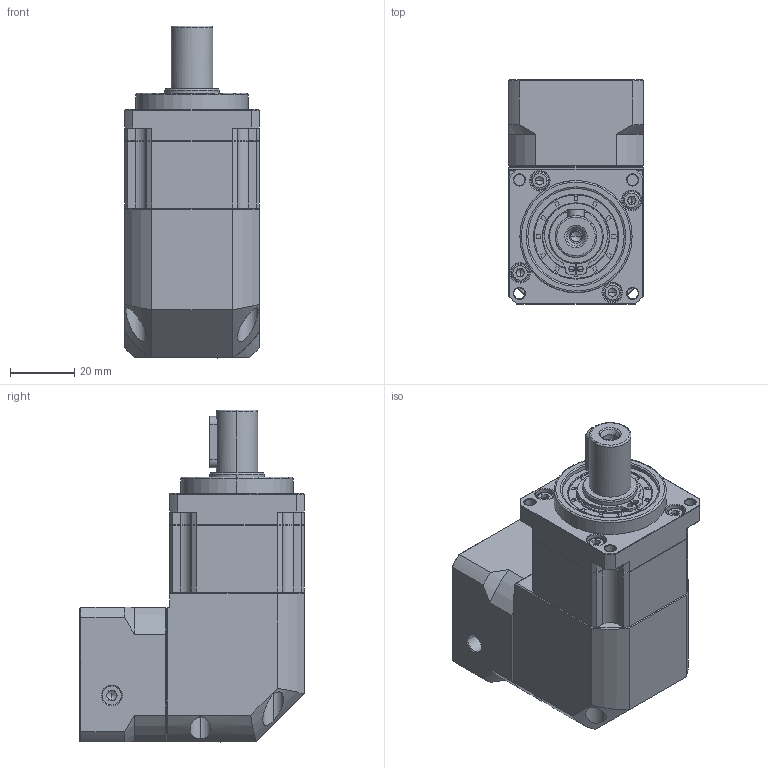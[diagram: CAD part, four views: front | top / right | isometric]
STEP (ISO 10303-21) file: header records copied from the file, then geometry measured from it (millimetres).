
FILE_DESCRIPTION (( 'STEP AP214' ), '1' );
FILE_NAME ('ZBR40-L1-P2-8-30-45-M3.STEP', '2023-06-06T13:15:37', ( 'Windows 蚚誧' ), ( 'Organization' ), 'SwSTEP 2.0', 'SolidWorks 2016', '' );
FILE_SCHEMA (( 'AUTOMOTIVE_DESIGN' ));
Length unit declared in the file: millimetre
Products named in the file (1): ZBR40-L1-P2-8-30-45-M3
Bounding box: 42 x 70 x 103.5 mm (x, y, z)
Volume: 156383.6 mm3; surface area: 40702.5 mm2
Topology: 7 solids, 7 shells, 2489 faces, 6650 edges, 4303 vertices
Faces by surface type: plane 1239, bspline 570, cylinder 412, cone 268
Entity records: 136687 total; most frequent: CARTESIAN_POINT 51903, ORIENTED_EDGE 13256, DIRECTION 9588, EDGE_CURVE 6628, VERTEX_POINT 4303, VECTOR 4244, LINE 4244, EDGE_LOOP 2677
